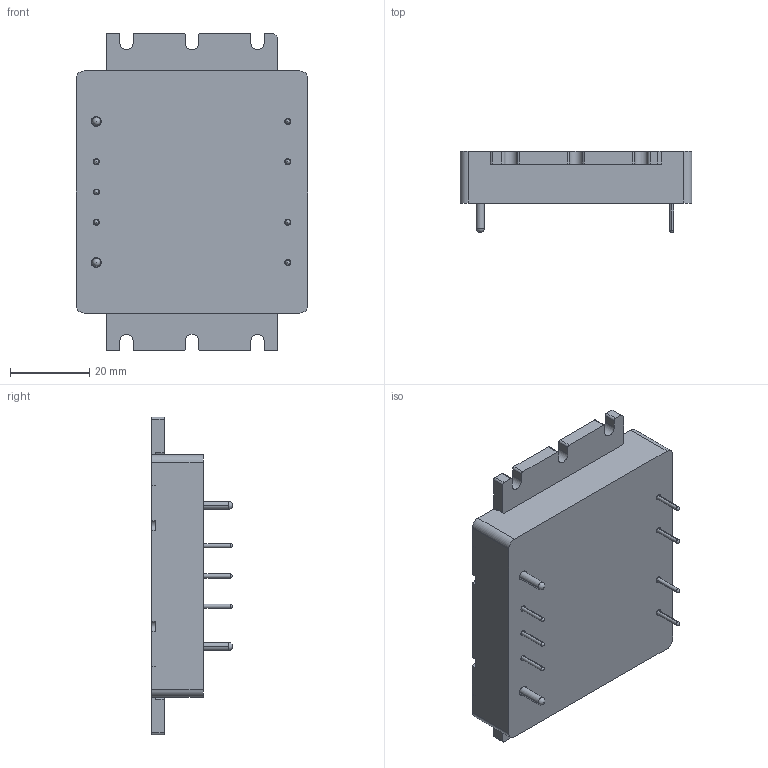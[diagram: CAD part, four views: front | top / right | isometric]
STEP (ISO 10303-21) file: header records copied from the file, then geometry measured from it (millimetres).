
FILE_DESCRIPTION (( 'STEP AP203' ), '1' );
FILE_NAME ('FLANGED.STEP', '2024-10-23T09:40:49', ( '' ), ( '' ), 'SwSTEP 2.0', 'SolidWorks 2021', '' );
FILE_SCHEMA (( 'CONFIG_CONTROL_DESIGN' ));
Length unit declared in the file: millimetre
Products named in the file (1): FLANGED
Bounding box: 58.4 x 20.38 x 80 mm (x, y, z)
Volume: 41408.7 mm3; surface area: 20405.7 mm2
Topology: 1 solids, 1 shells, 366 faces, 1154 edges, 744 vertices
Faces by surface type: plane 187, cylinder 152, cone 18, sphere 9
Entity records: 13502 total; most frequent: CARTESIAN_POINT 3496, ORIENTED_EDGE 2254, DIRECTION 1945, EDGE_CURVE 1127, VERTEX_POINT 726, AXIS2_PLACEMENT_3D 715, LINE 515, VECTOR 515
